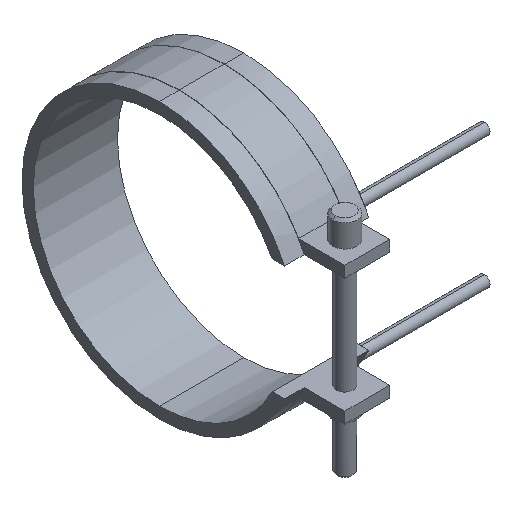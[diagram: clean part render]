
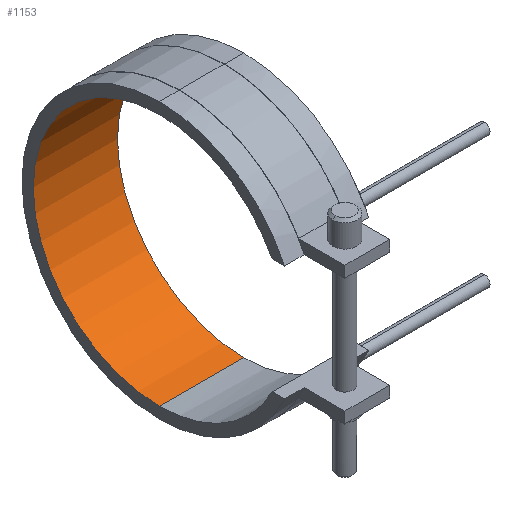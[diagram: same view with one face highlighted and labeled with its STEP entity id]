
A CAD part, isometric view. The second image highlights one B-rep face of the part: STEP entity #1153.
In plain terms, the highlighted cylindrical face has radius 45 mm (diameter 90 mm), a partial arc.
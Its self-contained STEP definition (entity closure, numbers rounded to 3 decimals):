
#834=CARTESIAN_POINT('Vertex',(-15.,0.,-45.)) ;
#841=CARTESIAN_POINT('Vertex',(15.,0.,-45.)) ;
#844=CARTESIAN_POINT('Line Origine',(15.,0.,-45.)) ;
#862=CARTESIAN_POINT('Axis2P3D Location',(-15.,0.,0.)) ;
#866=CARTESIAN_POINT('Vertex',(-15.,0.,45.)) ;
#923=CARTESIAN_POINT('Vertex',(15.,0.,45.)) ;
#933=CARTESIAN_POINT('Line Origine',(15.,0.,45.)) ;
#1024=CARTESIAN_POINT('Axis2P3D Location',(15.,0.,0.)) ;
#1142=CARTESIAN_POINT('Axis2P3D Location',(15.,0.,0.)) ;
#845=DIRECTION('Vector Direction',(1.,0.,0.)) ;
#863=DIRECTION('Axis2P3D Direction',(1.,0.,0.)) ;
#934=DIRECTION('Vector Direction',(1.,0.,0.)) ;
#1025=DIRECTION('Axis2P3D Direction',(1.,0.,0.)) ;
#1143=DIRECTION('Axis2P3D Direction',(1.,0.,-0.)) ;
#1144=DIRECTION('Axis2P3D XDirection',(0.,0.,-1.)) ;
#864=AXIS2_PLACEMENT_3D('Circle Axis2P3D',#862,#863,$) ;
#1026=AXIS2_PLACEMENT_3D('Circle Axis2P3D',#1024,#1025,$) ;
#1145=AXIS2_PLACEMENT_3D('Cylinder Axis2P3D',#1142,#1143,#1144) ;
#1148=ORIENTED_EDGE('',*,*,#1028,.T.) ;
#1149=ORIENTED_EDGE('',*,*,#937,.T.) ;
#1150=ORIENTED_EDGE('',*,*,#868,.F.) ;
#1151=ORIENTED_EDGE('',*,*,#848,.T.) ;
#846=VECTOR('Line Direction',#845,1.) ;
#935=VECTOR('Line Direction',#934,1.) ;
#1153=ADVANCED_FACE('14090030',(#1152),#1146,.F.) ;
#865=CIRCLE('generated circle',#864,45.) ;
#1027=CIRCLE('generated circle',#1026,45.) ;
#1146=CYLINDRICAL_SURFACE('generated cylinder',#1145,45.) ;
#848=EDGE_CURVE('',#835,#842,#847,.T.) ;
#868=EDGE_CURVE('',#835,#867,#865,.T.) ;
#937=EDGE_CURVE('',#924,#867,#936,.F.) ;
#1028=EDGE_CURVE('',#842,#924,#1027,.T.) ;
#1147=EDGE_LOOP('',(#1148,#1149,#1150,#1151)) ;
#1152=FACE_OUTER_BOUND('',#1147,.T.) ;
#847=LINE('Line',#844,#846) ;
#936=LINE('Line',#933,#935) ;
#835=VERTEX_POINT('',#834) ;
#842=VERTEX_POINT('',#841) ;
#867=VERTEX_POINT('',#866) ;
#924=VERTEX_POINT('',#923) ;
